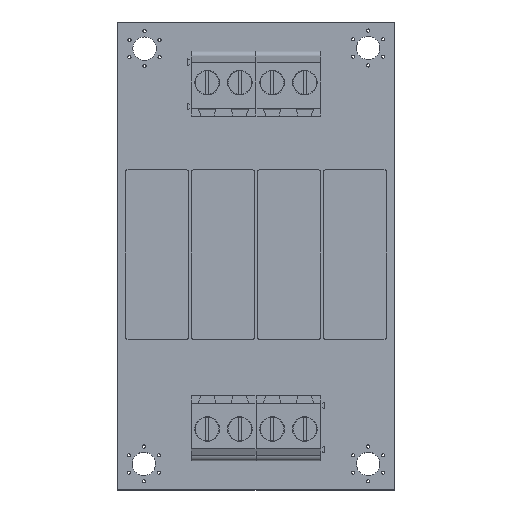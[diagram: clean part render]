
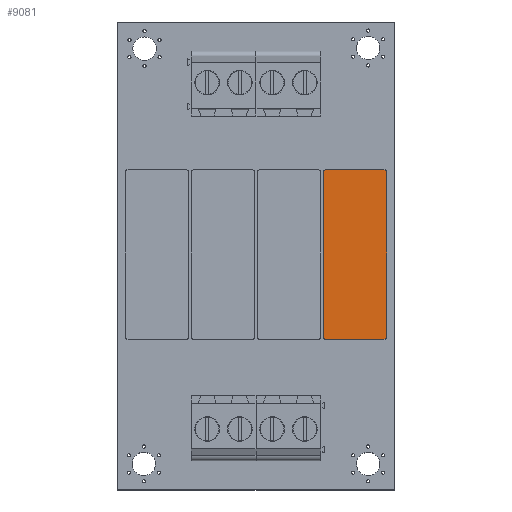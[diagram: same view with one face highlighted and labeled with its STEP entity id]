
A CAD part, top view. The second image highlights one B-rep face of the part: STEP entity #9081.
In plain terms, the highlighted planar face has unit normal (0, 0, 1) as drawn and (0, 1, 0) by its records, which use the part's own axes.
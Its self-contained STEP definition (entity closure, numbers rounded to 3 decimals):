
#8714 = VERTEX_POINT('',#8715);
#8715 = CARTESIAN_POINT('',(-13.21,12.802,
    4.597));
#8721 = EDGE_CURVE('',#8722,#8714,#8724,.T.);
#8722 = VERTEX_POINT('',#8723);
#8723 = CARTESIAN_POINT('',(-13.21,12.802,
    -4.597));
#8724 = LINE('',#8725,#8726);
#8725 = CARTESIAN_POINT('',(-13.21,12.802,
    -4.597));
#8726 = VECTOR('',#8727,1.);
#8727 = DIRECTION('',(0.,0.,1.));
#8772 = VERTEX_POINT('',#8773);
#8773 = CARTESIAN_POINT('',(12.799,12.802,
    -4.597));
#8779 = EDGE_CURVE('',#8780,#8772,#8782,.T.);
#8780 = VERTEX_POINT('',#8781);
#8781 = CARTESIAN_POINT('',(12.799,12.802,
    4.597));
#8782 = LINE('',#8783,#8784);
#8783 = CARTESIAN_POINT('',(12.799,12.802,
    4.597));
#8784 = VECTOR('',#8785,1.);
#8785 = DIRECTION('',(0.,0.,-1.));
#8907 = EDGE_CURVE('',#8908,#8722,#8910,.T.);
#8908 = VERTEX_POINT('',#8909);
#8909 = CARTESIAN_POINT('',(-12.956,12.802,
    -4.851));
#8910 = CIRCLE('',#8911,0.254);
#8911 = AXIS2_PLACEMENT_3D('',#8912,#8913,#8914);
#8912 = CARTESIAN_POINT('',(-12.956,12.802,
    -4.597));
#8913 = DIRECTION('',(0.,1.,0.));
#8914 = DIRECTION('',(0.,0.,-1.));
#8932 = VERTEX_POINT('',#8933);
#8933 = CARTESIAN_POINT('',(-12.956,12.802,
    4.851));
#8939 = EDGE_CURVE('',#8714,#8932,#8940,.T.);
#8940 = CIRCLE('',#8941,0.254);
#8941 = AXIS2_PLACEMENT_3D('',#8942,#8943,#8944);
#8942 = CARTESIAN_POINT('',(-12.956,12.802,
    4.597));
#8943 = DIRECTION('',(0.,1.,0.));
#8944 = DIRECTION('',(0.,0.,1.));
#8965 = VERTEX_POINT('',#8966);
#8966 = CARTESIAN_POINT('',(12.545,12.802,
    4.851));
#8972 = EDGE_CURVE('',#8932,#8965,#8973,.T.);
#8973 = LINE('',#8974,#8975);
#8974 = CARTESIAN_POINT('',(12.545,12.802,
    4.851));
#8975 = VECTOR('',#8976,1.);
#8976 = DIRECTION('',(1.,0.,0.));
#9004 = EDGE_CURVE('',#8965,#8780,#9005,.T.);
#9005 = CIRCLE('',#9006,0.254);
#9006 = AXIS2_PLACEMENT_3D('',#9007,#9008,#9009);
#9007 = CARTESIAN_POINT('',(12.545,12.802,
    4.597));
#9008 = DIRECTION('',(0.,1.,0.));
#9009 = DIRECTION('',(0.,0.,-1.));
#9022 = VERTEX_POINT('',#9023);
#9023 = CARTESIAN_POINT('',(12.545,12.802,
    -4.851));
#9029 = EDGE_CURVE('',#8772,#9022,#9030,.T.);
#9030 = CIRCLE('',#9031,0.254);
#9031 = AXIS2_PLACEMENT_3D('',#9032,#9033,#9034);
#9032 = CARTESIAN_POINT('',(12.545,12.802,
    -4.597));
#9033 = DIRECTION('',(0.,1.,0.));
#9034 = DIRECTION('',(0.,0.,1.));
#9055 = EDGE_CURVE('',#9022,#8908,#9056,.T.);
#9056 = LINE('',#9057,#9058);
#9057 = CARTESIAN_POINT('',(12.545,12.802,
    -4.851));
#9058 = VECTOR('',#9059,1.);
#9059 = DIRECTION('',(-1.,0.,0.));
#9081 = ADVANCED_FACE('',(#9082),#9092,.F.);
#9082 = FACE_BOUND('',#9083,.T.);
#9083 = EDGE_LOOP('',(#9084,#9085,#9086,#9087,#9088,#9089,#9090,#9091));
#9084 = ORIENTED_EDGE('',*,*,#8907,.T.);
#9085 = ORIENTED_EDGE('',*,*,#8721,.T.);
#9086 = ORIENTED_EDGE('',*,*,#8939,.T.);
#9087 = ORIENTED_EDGE('',*,*,#8972,.T.);
#9088 = ORIENTED_EDGE('',*,*,#9004,.T.);
#9089 = ORIENTED_EDGE('',*,*,#8779,.T.);
#9090 = ORIENTED_EDGE('',*,*,#9029,.T.);
#9091 = ORIENTED_EDGE('',*,*,#9055,.T.);
#9092 = PLANE('',#9093);
#9093 = AXIS2_PLACEMENT_3D('',#9094,#9095,#9096);
#9094 = CARTESIAN_POINT('',(-12.956,12.802,
    -4.597));
#9095 = DIRECTION('',(0.,-1.,0.));
#9096 = DIRECTION('',(0.,0.,-1.));
